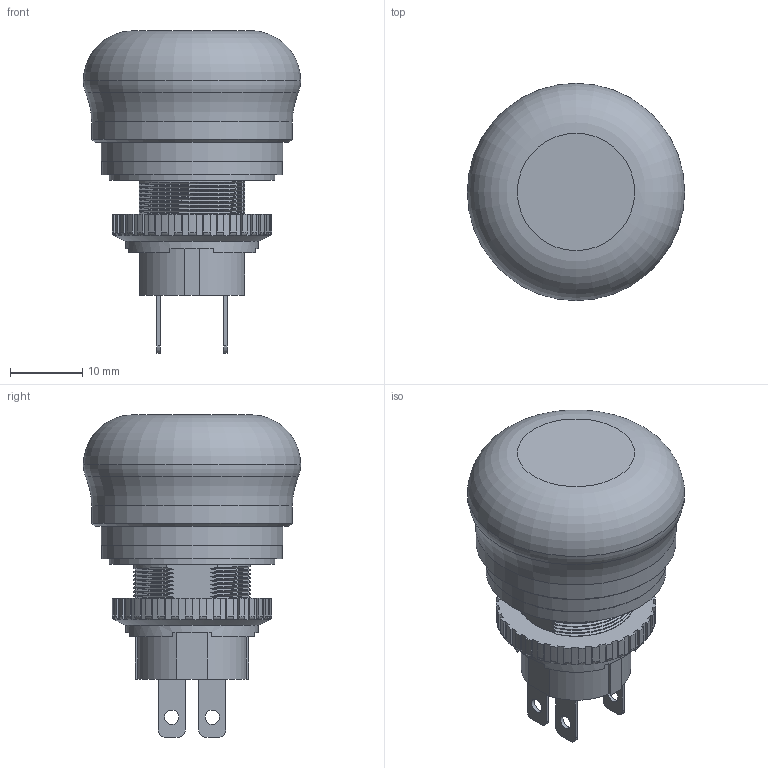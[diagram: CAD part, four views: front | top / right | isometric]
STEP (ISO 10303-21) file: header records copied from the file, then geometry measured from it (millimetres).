
FILE_DESCRIPTION(/* description */ ('Unknown'),/* implementation_level */ '2;1');
FILE_NAME(/* name */ 'AB6E-3BV02PTRM',/* time_stamp */ '2023-06-27T13:48:28+02:00',/* author */ ('Unknown'),/* organization */ ('Unknown'),/* preprocessor_version */ 'ST-DEVELOPER v18.102',/* originating_system */ 'Solid Edge',/* authorisation */ 'Unknown');
FILE_SCHEMA (('AUTOMOTIVE_DESIGN {1 0 10303 214 3 1 1}'));
Length unit declared in the file: millimetre
Products named in the file (1): AB6E-3BV02PTRM
Bounding box: 30 x 30 x 44.5 mm (x, y, z)
Volume: 15561.4 mm3; surface area: 4766.5 mm2
Topology: 1 solids, 1 shells, 348 faces, 1028 edges, 669 vertices
Faces by surface type: plane 166, cylinder 75, bspline 63, torus 38, cone 6
Full cylindrical faces by diameter (mm): 2 x4, 15.618 x1, 18.34 x1, 22.823 x1, 24.906 x1, 25.083 x1, 27.699 x1
Entity records: 36898 total; most frequent: CARTESIAN_POINT 26167, ORIENTED_EDGE 2000, DIRECTION 1381, EDGE_CURVE 1000, VERTEX_POINT 662, AXIS2_PLACEMENT_3D 467, LINE 447, VECTOR 447
